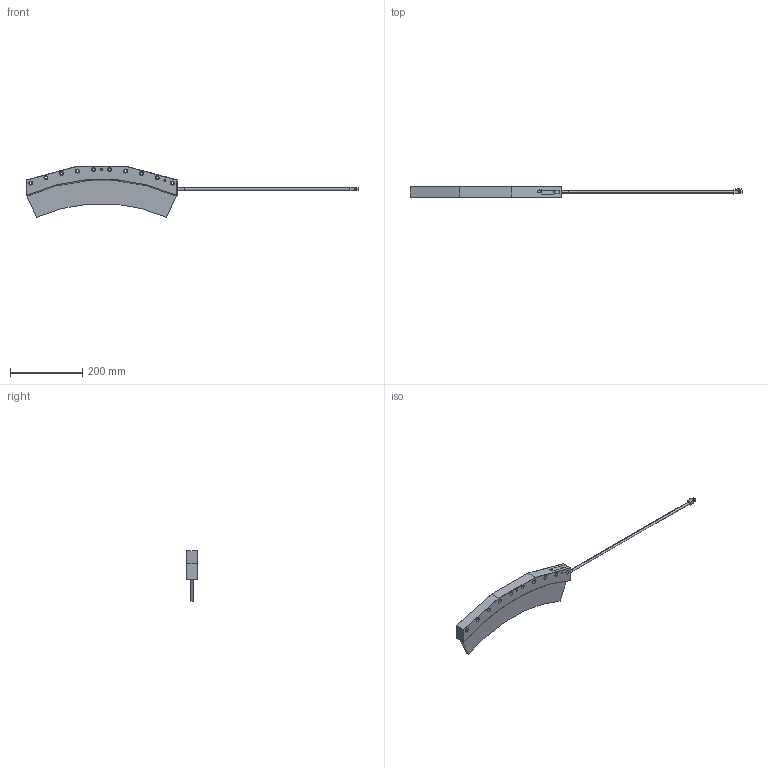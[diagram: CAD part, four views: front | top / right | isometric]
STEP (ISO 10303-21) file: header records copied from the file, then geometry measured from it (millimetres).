
FILE_DESCRIPTION (( 'STEP AP214' ), '1' );
FILE_NAME ('CLD-CM40KA2A_#1.00_0.STEP', '2021-02-26T04:11:13', ( '' ), ( '' ), 'SwSTEP 2.0', 'SolidWorks 2018', '' );
FILE_SCHEMA (( 'AUTOMOTIVE_DESIGN' ));
Length unit declared in the file: millimetre
Products named in the file (1): CLD-CM40KA2A_#1.00_0
Bounding box: 918 x 29 x 140.41 mm (x, y, z)
Volume: 622795.3 mm3; surface area: 130922.3 mm2
Topology: 2 solids, 2 shells, 238 faces, 556 edges, 356 vertices
Faces by surface type: plane 123, cylinder 101, cone 14
Entity records: 6899 total; most frequent: DIRECTION 1230, CARTESIAN_POINT 1187, ORIENTED_EDGE 1112, EDGE_CURVE 556, AXIS2_PLACEMENT_3D 447, VERTEX_POINT 356, LINE 336, VECTOR 336
